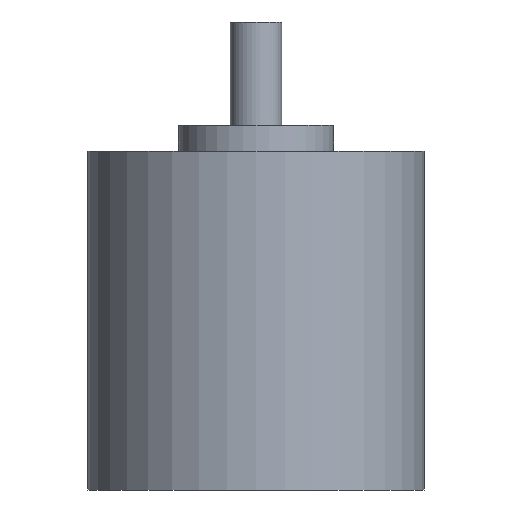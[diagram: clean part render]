
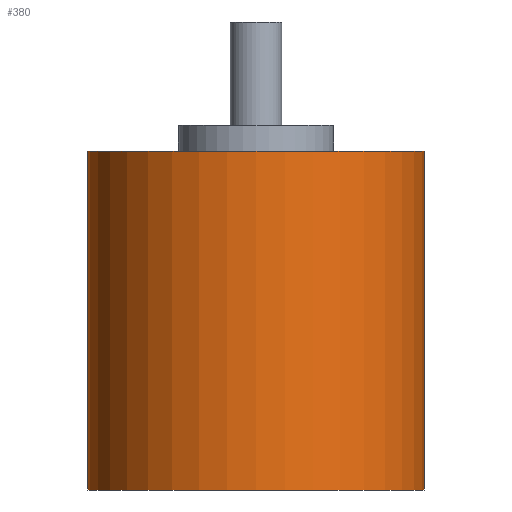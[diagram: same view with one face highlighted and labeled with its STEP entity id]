
A CAD part, front view. The second image highlights one B-rep face of the part: STEP entity #380.
In plain terms, the highlighted cylindrical face has radius 13 mm (diameter 26 mm), a partial arc.
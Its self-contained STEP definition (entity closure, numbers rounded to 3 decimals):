
#2 = DIRECTION ( 'NONE',  ( 0., 0., 1. ) ) ;
#9 = VERTEX_POINT ( 'NONE', #492 ) ;
#22 = VERTEX_POINT ( 'NONE', #652 ) ;
#64 = ORIENTED_EDGE ( 'NONE', *, *, #1046, .F. ) ;
#73 = CARTESIAN_POINT ( 'NONE',  ( 13., 0., 0. ) ) ;
#86 = DIRECTION ( 'NONE',  ( 0., 0., 1. ) ) ;
#106 = ORIENTED_EDGE ( 'NONE', *, *, #1035, .T. ) ;
#141 = AXIS2_PLACEMENT_3D ( 'NONE', #258, #1004, #584 ) ;
#161 = ORIENTED_EDGE ( 'NONE', *, *, #392, .F. ) ;
#226 = CIRCLE ( 'NONE', #141, 13. ) ;
#236 = VECTOR ( 'NONE', #272, 1000. ) ;
#238 = CARTESIAN_POINT ( 'NONE',  ( 0., 0., 0. ) ) ;
#258 = CARTESIAN_POINT ( 'NONE',  ( 0., 0., -26.2 ) ) ;
#272 = DIRECTION ( 'NONE',  ( 0., 0., 1. ) ) ;
#313 = VERTEX_POINT ( 'NONE', #730 ) ;
#329 = VERTEX_POINT ( 'NONE', #73 ) ;
#380 = ADVANCED_FACE ( 'NONE', ( #887 ), #978, .T. ) ;
#389 = DIRECTION ( 'NONE',  ( 1., 0., 0. ) ) ;
#392 = EDGE_CURVE ( 'NONE', #22, #329, #441, .T. ) ;
#431 = LINE ( 'NONE', #1013, #236 ) ;
#441 = CIRCLE ( 'NONE', #458, 13. ) ;
#458 = AXIS2_PLACEMENT_3D ( 'NONE', #238, #86, #389 ) ;
#463 = CARTESIAN_POINT ( 'NONE',  ( 0., 0., -26.2 ) ) ;
#492 = CARTESIAN_POINT ( 'NONE',  ( 13., 0., -26.2 ) ) ;
#525 = EDGE_CURVE ( 'NONE', #313, #9, #226, .T. ) ;
#570 = DIRECTION ( 'NONE',  ( 0., 0., 1. ) ) ;
#581 = CARTESIAN_POINT ( 'NONE',  ( -13., 0., -26.2 ) ) ;
#584 = DIRECTION ( 'NONE',  ( 1., 0., 0. ) ) ;
#601 = LINE ( 'NONE', #581, #874 ) ;
#652 = CARTESIAN_POINT ( 'NONE',  ( -13., 0., 0. ) ) ;
#721 = ORIENTED_EDGE ( 'NONE', *, *, #525, .T. ) ;
#730 = CARTESIAN_POINT ( 'NONE',  ( -13., 0., -26.2 ) ) ;
#738 = EDGE_LOOP ( 'NONE', ( #64, #721, #106, #161 ) ) ;
#826 = DIRECTION ( 'NONE',  ( 1., 0., 0. ) ) ;
#874 = VECTOR ( 'NONE', #2, 1000. ) ;
#887 = FACE_OUTER_BOUND ( 'NONE', #738, .T. ) ;
#978 = CYLINDRICAL_SURFACE ( 'NONE', #1017, 13. ) ;
#1004 = DIRECTION ( 'NONE',  ( 0., 0., 1. ) ) ;
#1013 = CARTESIAN_POINT ( 'NONE',  ( 13., 0., -26.2 ) ) ;
#1017 = AXIS2_PLACEMENT_3D ( 'NONE', #463, #570, #826 ) ;
#1035 = EDGE_CURVE ( 'NONE', #9, #329, #431, .T. ) ;
#1046 = EDGE_CURVE ( 'NONE', #313, #22, #601, .T. ) ;
